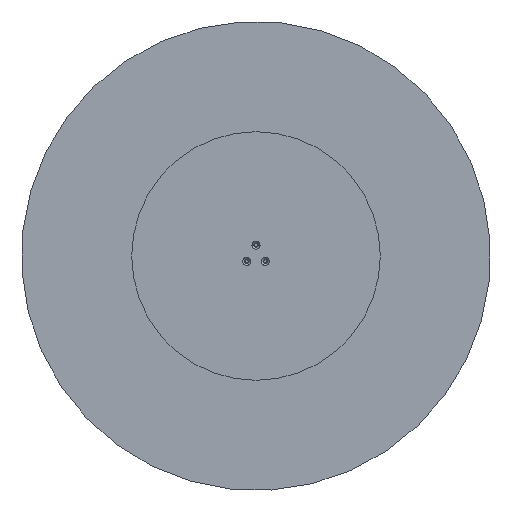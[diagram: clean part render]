
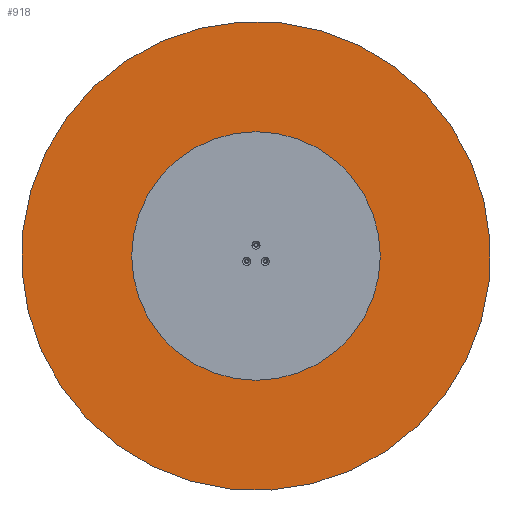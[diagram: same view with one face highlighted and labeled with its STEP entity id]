
A CAD part, front view. The second image highlights one B-rep face of the part: STEP entity #918.
In plain terms, the highlighted planar face has unit normal (0, -1, 0).
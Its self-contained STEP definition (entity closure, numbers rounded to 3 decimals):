
#59 = DIRECTION ( 'NONE',  ( 0., -1., 0. ) ) ;
#306 = VERTEX_POINT ( 'NONE', #1879 ) ;
#643 = DIRECTION ( 'NONE',  ( 0., -1., 0. ) ) ;
#918 = ADVANCED_FACE ( 'NONE', ( #3070 ), #3299, .T. ) ;
#1009 = DIRECTION ( 'NONE',  ( 0., 0., -1. ) ) ;
#1174 = CIRCLE ( 'NONE', #1309, 500. ) ;
#1235 = DIRECTION ( 'NONE',  ( 0., 0., -1. ) ) ;
#1309 = AXIS2_PLACEMENT_3D ( 'NONE', #2983, #1527, #1505 ) ;
#1482 = ORIENTED_EDGE ( 'NONE', *, *, #2825, .T. ) ;
#1487 = CARTESIAN_POINT ( 'NONE',  ( 0., 0., 500. ) ) ;
#1505 = DIRECTION ( 'NONE',  ( 0., 0., -1. ) ) ;
#1527 = DIRECTION ( 'NONE',  ( 0., -1., 0. ) ) ;
#1879 = CARTESIAN_POINT ( 'NONE',  ( 0., 0., -500. ) ) ;
#2158 = ORIENTED_EDGE ( 'NONE', *, *, #3632, .T. ) ;
#2738 = CARTESIAN_POINT ( 'NONE',  ( 0., 0., 0. ) ) ;
#2825 = EDGE_CURVE ( 'NONE', #3598, #306, #3427, .T. ) ;
#2859 = AXIS2_PLACEMENT_3D ( 'NONE', #2738, #59, #1009 ) ;
#2983 = CARTESIAN_POINT ( 'NONE',  ( 0., 0., 0. ) ) ;
#3050 = CARTESIAN_POINT ( 'NONE',  ( 0., 0., 0. ) ) ;
#3070 = FACE_OUTER_BOUND ( 'NONE', #3504, .T. ) ;
#3229 = AXIS2_PLACEMENT_3D ( 'NONE', #3050, #643, #1235 ) ;
#3299 = PLANE ( 'NONE',  #3229 ) ;
#3427 = CIRCLE ( 'NONE', #2859, 500. ) ;
#3504 = EDGE_LOOP ( 'NONE', ( #2158, #1482 ) ) ;
#3598 = VERTEX_POINT ( 'NONE', #1487 ) ;
#3632 = EDGE_CURVE ( 'NONE', #306, #3598, #1174, .T. ) ;
